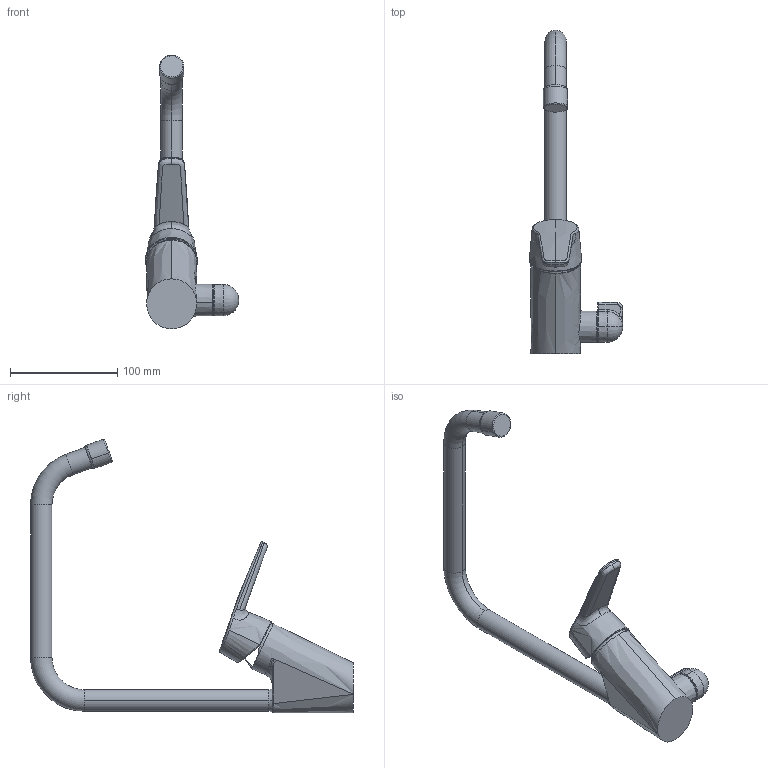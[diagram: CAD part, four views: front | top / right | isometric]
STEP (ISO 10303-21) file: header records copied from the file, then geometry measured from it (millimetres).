
FILE_DESCRIPTION (( 'STEP AP203' ), '1' );
FILE_NAME ('3934(2020)+3934F(2020).STEP', '2020-01-02T09:34:11', ( '' ), ( '' ), 'SwSTEP 2.0', 'SolidWorks 2016', '' );
FILE_SCHEMA (( 'CONFIG_CONTROL_DESIGN' ));
Length unit declared in the file: millimetre
Products named in the file (1): 3934(2020)+3934F(2020)
Bounding box: 86.86 x 300.7 x 254.85 mm (x, y, z)
Volume: 203973.5 mm3; surface area: 65533.5 mm2
Topology: 1 solids, 1 shells, 114 faces, 315 edges, 202 vertices
Faces by surface type: bspline 54, cylinder 18, torus 17, plane 13, cone 12
Entity records: 20474 total; most frequent: CARTESIAN_POINT 18046, ORIENTED_EDGE 614, DIRECTION 316, EDGE_CURVE 307, VERTEX_POINT 201, B_SPLINE_CURVE_WITH_KNOTS 179, AXIS2_PLACEMENT_3D 140, EDGE_LOOP 118
